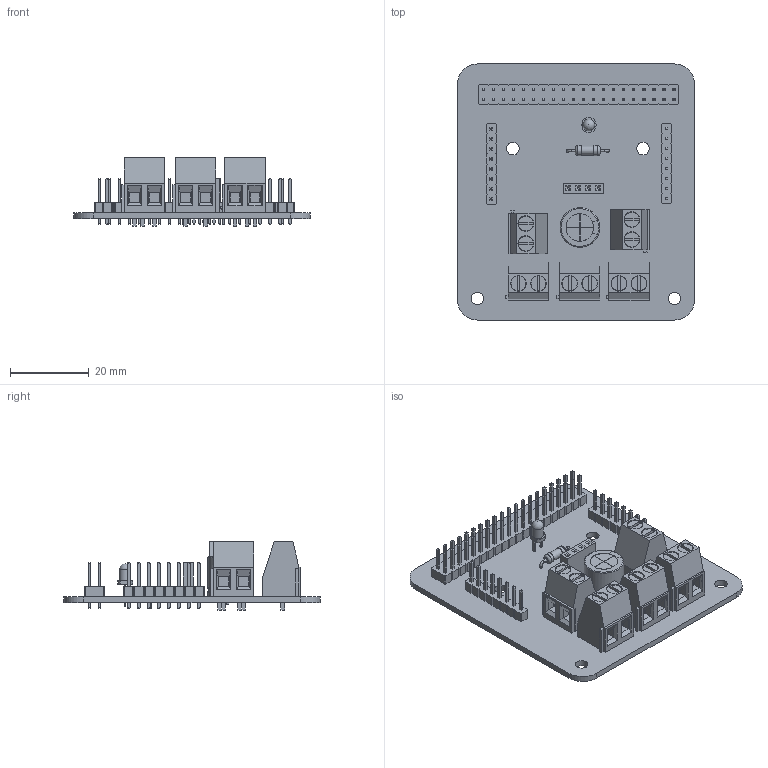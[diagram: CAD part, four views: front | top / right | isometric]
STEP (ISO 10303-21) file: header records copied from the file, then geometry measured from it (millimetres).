
FILE_DESCRIPTION(('KiCad electronic assembly'),'2;1');
FILE_NAME('Wall-E Power Hub v1.0.step','2026-10-08T01:32:23',('Pcbnew'), ('Kicad'),'Open CASCADE STEP processor 7.9','KiCad to STEP converter', 'Unknown');
FILE_SCHEMA(('AUTOMOTIVE_DESIGN { 1 0 10303 214 1 1 1 1 }'));
Length unit declared in the file: millimetre
Products named in the file (9): Wall-E Power Hub v1.0 1; PinHeader_1x08_P2.54mm_Vertical; LED_D3.0mm; PinHeader_2x20_P2.54mm_Vertical; R_Axial_DIN0207_L6.3mm_D2.5mm_P10.16mm_Horizontal; TerminalBlock_Phoenix_MKDS-1,5-2-5.08_1x02_P5.08mm_Horizontal; PinSocket_1x04_P2.54mm_Vertical; CP_Radial_D10.0mm_P5.00mm; PCB_PCB
Assembly tree (13 placements, depth 2):
  Wall-E Power Hub v1.0 1
    PinHeader_1x08_P2.54mm_Vertical  x2
    LED_D3.0mm
    PinHeader_2x20_P2.54mm_Vertical
    R_Axial_DIN0207_L6.3mm_D2.5mm_P10.16mm_Horizontal
    TerminalBlock_Phoenix_MKDS-1,5-2-5.08_1x02_P5.08mm_Horizontal  x5
    PinSocket_1x04_P2.54mm_Vertical
    CP_Radial_D10.0mm_P5.00mm
    PCB_PCB
Bounding box: 60.03 x 64.97 x 17.3 mm (x, y, z)
Volume: 12952.6 mm3; surface area: 18746.3 mm2
Topology: 13 solids, 14 shells, 1966 faces, 4774 edges, 2984 vertices
Faces by surface type: plane 1783, cylinder 127, bspline 45, torus 6, revolution 4, sphere 1
Full cylindrical faces by diameter (mm): 0.6 x4, 0.7 x2, 0.8 x2, 0.9 x2, 1 x62, 1.3 x10, 2.25 x1, 2.5 x2, 3 x1, 3.2 x4, 3.8 x10, 4 x10
Entity records: 51152 total; most frequent: CARTESIAN_POINT 7688, ORIENTED_EDGE 6810, DIRECTION 6485, EDGE_CURVE 3405, LINE 3093, VECTOR 3093, VERTEX_POINT 2127, FACE_BOUND 1696
